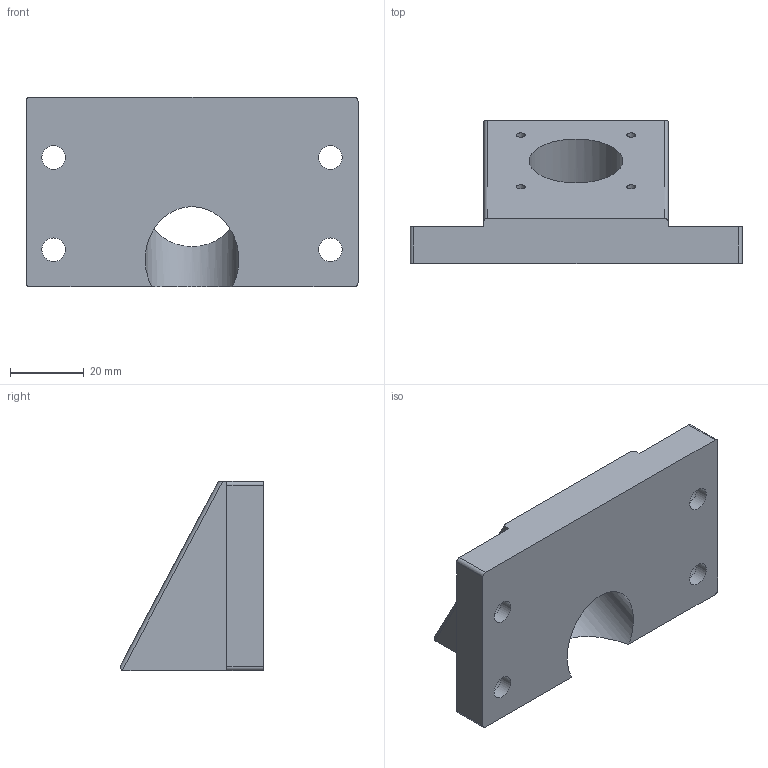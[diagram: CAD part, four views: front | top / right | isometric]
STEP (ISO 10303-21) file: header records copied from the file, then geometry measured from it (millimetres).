
FILE_DESCRIPTION (( 'STEP AP214' ), '1' );
FILE_NAME ('MOT_laser_¹Ì¶¨1.STEP', '2026-10-22T13:11:07', ( '' ), ( '' ), 'SwSTEP 2.0', 'SolidWorks 2022', '' );
FILE_SCHEMA (( 'AUTOMOTIVE_DESIGN' ));
Length unit declared in the file: millimetre
Products named in the file (1): MOT_laser_嘐隅1
Bounding box: 90 x 38.9 x 51.33 mm (x, y, z)
Volume: 68548.6 mm3; surface area: 17759.5 mm2
Topology: 1 solids, 1 shells, 42 faces, 103 edges, 66 vertices
Faces by surface type: cylinder 20, plane 14, cone 8
Full cylindrical faces by diameter (mm): 2.5 x4, 6.4 x4, 11 x4, 25.4 x1
Entity records: 1193 total; most frequent: CARTESIAN_POINT 202, DIRECTION 196, ORIENTED_EDGE 154, AXIS2_PLACEMENT_3D 82, EDGE_CURVE 77, EDGE_LOOP 76, VERTEX_POINT 61, FACE_OUTER_BOUND 55
